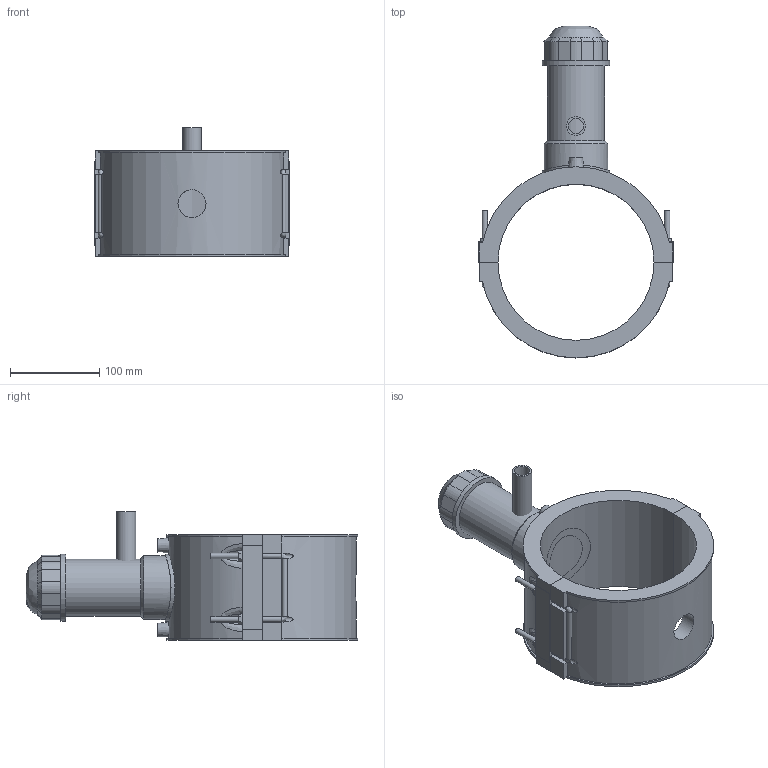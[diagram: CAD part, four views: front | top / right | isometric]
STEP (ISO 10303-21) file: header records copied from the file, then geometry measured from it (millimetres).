
FILE_DESCRIPTION(/* description */ ('PLASSON TAPPING SADDLE 6''''DIPS x 1/2''''IPS'),/* implementation_level */ '2;1');
FILE_NAME(/* name */ 'C:\Dropbox\KIMPROJECTS-Inventor 2019\99-16-3568-Processing Inch\ASTM ElectroFusion 2021\5963DBP_5963BUP\5963DBP3060005.ipt.stp',/* time_stamp */ '2021-08-30T09:58:27+03:00',/* author */ ('KIM'),/* organization */ (''),/* preprocessor_version */ 'ST-DEVELOPER v17.2',/* originating_system */ 'Autodesk Inventor 2019',/* authorisation */ '');
FILE_SCHEMA (('AUTOMOTIVE_DESIGN { 1 0 10303 214 3 1 1 }'));
Length unit declared in the file: inch
Products named in the file (1): 5963DBP3060005
Bounding box: 217.9 x 371.08 x 144.15 mm (x, y, z)
Volume: 1645131.7 mm3; surface area: 269278.9 mm2
Topology: 3 solids, 3 shells, 200 faces, 521 edges, 340 vertices
Faces by surface type: plane 125, cylinder 51, cone 15, bspline 9
Full cylindrical faces by diameter (mm): 4 x2, 6 x8, 10 x2, 16.96 x1, 21.2 x1, 31.36 x1, 52.524 x1, 63.78 x1, 71.283 x1, 75.035 x2
Entity records: 7416 total; most frequent: CARTESIAN_POINT 2469, ORIENTED_EDGE 1042, DIRECTION 976, EDGE_CURVE 521, VERTEX_POINT 340, AXIS2_PLACEMENT_3D 330, LINE 316, VECTOR 316
